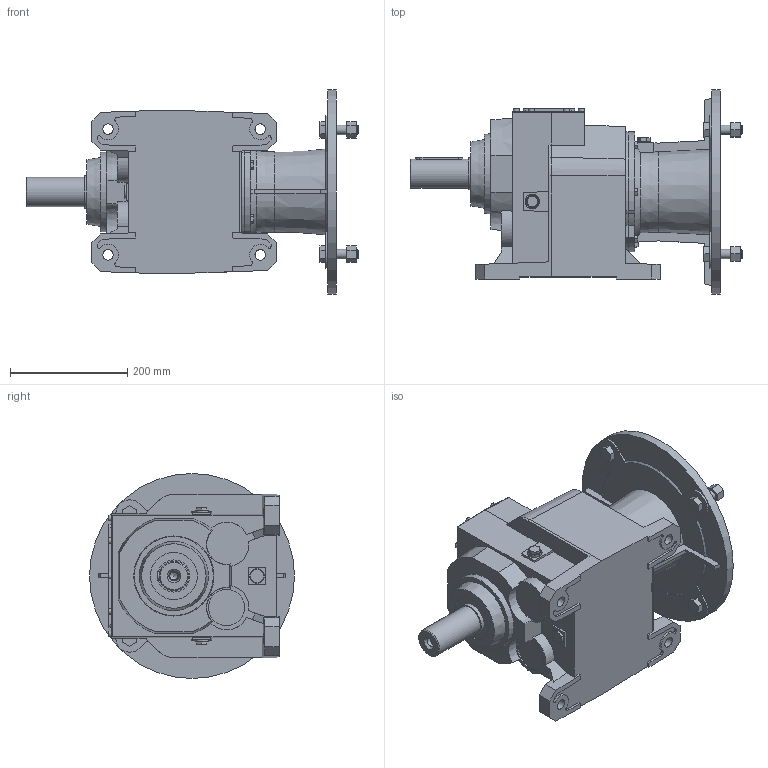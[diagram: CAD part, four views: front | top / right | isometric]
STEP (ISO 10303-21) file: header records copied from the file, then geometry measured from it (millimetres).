
FILE_DESCRIPTION(/* description */ ('STEP AP242','CAx-IF Rec.Pracs.---Representation and Presentation of Product Manufacturing Information (PMI)---4.0---2014-10-13','CAx-IF Rec.Pracs.---3D Tessellated Geometry---0.4---2014-09-14','2;1'),/* implementation_level */ '2;1');
FILE_NAME(/* name */ 'H082T160_B550x1000NO----_-NO----------',/* time_stamp */ '2025-11-25T15:31:41+01:00',/* author */ ('License CC BY-ND 4.0'),/* organization */ ('CADENAS'),/* preprocessor_version */ 'ST-DEVELOPER v20',/* originating_system */ 'PARTsolutions',/* authorisation */ ' ');
FILE_SCHEMA (('AP242_MANAGED_MODEL_BASED_3D_ENGINEERING_MIM_LF { 1 0 10303 442 1 1 4 }'));
Length unit declared in the file: millimetre
Products named in the file (5): H082T160 B550x1000NO----(-NO----------); 082 T; 082-H-350x42(160 B51); 082-350x42; 082T50-1
Assembly tree (4 placements, depth 2):
  H082T160 B550x1000NO----(-NO----------)
    082 T
    082-H-350x42(160 B51)
    082-350x42
    082T50-1
Bounding box: 567 x 350 x 350 mm (x, y, z)
Volume: 18773992.6 mm3; surface area: 914072.8 mm2
Topology: 4 solids, 4 shells, 543 faces, 1352 edges, 893 vertices
Faces by surface type: plane 395, cylinder 86, cone 61, torus 1
Full cylindrical faces by diameter (mm): 9.412 x3, 10 x10, 13.835 x1, 16 x8, 17 x1, 18 x4, 22 x5, 25 x5, 50 x1, 55 x1, 58 x1, 62 x1, 65 x1, 80 x1, 160 x2, 250 x1, 350 x1
Entity records: 19490 total; most frequent: CARTESIAN_POINT 3012, ORIENTED_EDGE 2562, DIRECTION 2544, EDGE_CURVE 1281, LINE 922, VECTOR 922, VERTEX_POINT 881, AXIS2_PLACEMENT_3D 811
